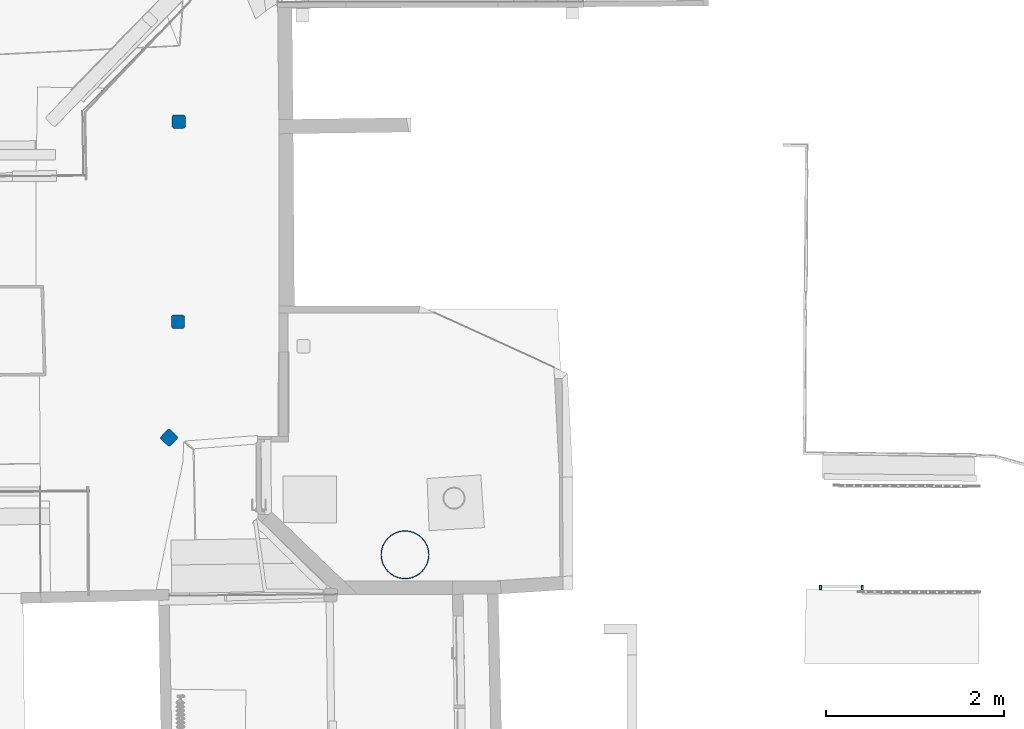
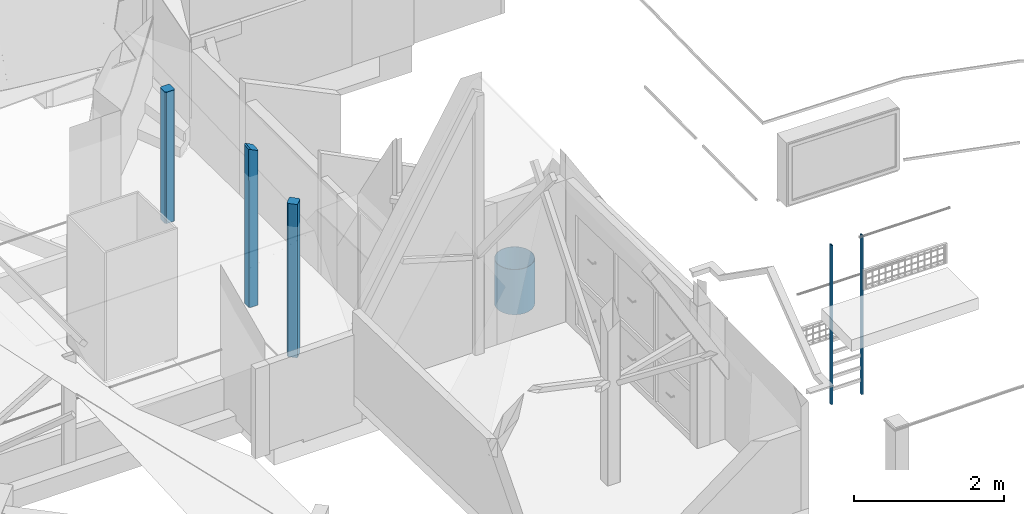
# One storey, part 2 of 39: 6 columns.
"""IFC2X3 building model written with IfcOpenShell, lengths in centimetres."""

from ifc_helpers import new_model, entity, si_unit, converted_unit, direction, frame, origin, origin_with_axes, origin_2d_with_axis, place, context, subcontext, project, spatial, polyline, rounded_rectangle, hollow_rectangle, hollow_circle, extrude, clip, bounded_halfspace, source, transform, mapped, material, type_object, element, save


model = new_model("IFC2X3")

# Units and contexts
model_context = context("Model", 3, precision=0.0001, world=origin(), true_north=direction((0.225632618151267, 0.974212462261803, 0.0)))
body_context = subcontext(model_context, "Body", "Model", "MODEL_VIEW")
ifc_project = project(units=[si_unit("LENGTHUNIT", "METRE", prefix="CENTI"), si_unit("AREAUNIT", "SQUARE_METRE", prefix="CENTI"), si_unit("VOLUMEUNIT", "CUBIC_METRE", prefix="CENTI"), converted_unit("PLANEANGLEUNIT", "DEGREE", entity("IfcRatioMeasure", 0.0174532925), si_unit("PLANEANGLEUNIT", "RADIAN"), dimensions=[0, 0, 0, 0, 0, 0, 0])], contexts=[model_context])

# Site, building, storey
site_placement = place(None, origin_with_axes())
site = spatial("IfcSite", under=ifc_project, at=site_placement, Name="Default Site", CompositionType="ELEMENT")
building_placement = place(site_placement, origin_with_axes())
building = spatial("IfcBuilding", under=site, at=building_placement, Name="Default Building", CompositionType="ELEMENT")
storey_placement = place(building_placement, frame((0.0, 0.0, 1088.91037418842), z_axis=(0.0, 0.0, 1.0), x_axis=(1.0, 0.0, 0.0)))
storey = spatial("IfcBuildingStorey", under=building, at=storey_placement, Name="Mezzanine", CompositionType="ELEMENT", Elevation=1088.91037418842)

# Columns
ifc_material_1 = material(Name="Aluminium mat")
column_type_1 = type_object("IfcColumnType", Name="2X1-5/16", PredefinedType="USERDEFINED", material=ifc_material_1)
shared_shape_1 = source(origin_with_axes(), body_context, "Body", "SweptSolid", [
    extrude(hollow_rectangle(XDim=2.5, YDim=5.0, WallThickness=0.79, at=origin_2d_with_axis()), origin_with_axes(), (0.0, 0.0, 1.0), 100.0),
])
column_1_placement = place(storey_placement, frame((1162.74193924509, -345.195610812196, -235.0), z_axis=(0.0, 0.0, 1.0), x_axis=(1.0, 0.0, 0.0)))
element("IfcColumn", 1, at=column_1_placement, inside=storey, type_object=column_type_1, material=ifc_material_1, Name="Poteau Acier 1519593", ObjectType="column", context=body_context, shape_type="MappedRepresentation", body=[
    mapped(shared_shape_1, transform((0.0, 4.44089209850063e-14, -1.77635683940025e-13), x_axis=(1.0, 0.0, 0.0), y_axis=(0.0, 1.0, 0.0), z_axis=(0.0, 0.0, 1.0), scale=1.0, scale2=1.0, scale3=2.59702416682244, uniform=False)),
])
column_2_placement = place(storey_placement, frame((1115.60962314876, -344.975083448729, -235.0), z_axis=(0.0, 0.0, 1.0), x_axis=(1.0, 0.0, 0.0)))
element("IfcColumn", 2, at=column_2_placement, inside=storey, type_object=column_type_1, material=ifc_material_1, Name="Poteau Acier 1519596", ObjectType="column", context=body_context, shape_type="MappedRepresentation", body=[
    mapped(shared_shape_1, transform((0.0, 0.0, -1.77635683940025e-13), x_axis=(1.0, 0.0, 0.0), y_axis=(0.0, 1.0, 0.0), z_axis=(0.0, 0.0, 1.0), scale=1.0, scale2=1.0, scale3=2.59702416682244, uniform=False)),
])
ifc_material_2 = material(Name="Blanc")
column_type_2 = type_object("IfcColumnType", Name="150.0x150.0x25.0", PredefinedType="USERDEFINED", material=ifc_material_2)
shared_shape_2 = source(origin_with_axes(), body_context, "Body", "SweptSolid", [
    extrude(rounded_rectangle(XDim=15.0, YDim=15.0, RoundingRadius=2.5, at=origin_2d_with_axis()), origin_with_axes(), (0.0, 0.0, 1.0), 100.0),
])
column_3_placement = place(storey_placement, frame((383.298838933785, -176.571393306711, 0.0), z_axis=(0.0, 0.0, 1.0), x_axis=(0.684711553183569, 0.728814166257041, 0.0)))
element("IfcColumn", 3, at=column_3_placement, inside=storey, type_object=column_type_2, material=ifc_material_2, Name="Poteau 834608", ObjectType="column", context=body_context, shape_type="MappedRepresentation", body=[
    mapped(shared_shape_2, transform((2.22044604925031e-14, 0.0, -1.77635683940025e-13), x_axis=(1.0, 0.0, 0.0), y_axis=(0.0, 1.0, 0.0), z_axis=(0.0, 0.0, 1.0), scale=1.0, scale2=1.0, scale3=2.50174718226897, uniform=False)),
])
column_4_placement = place(storey_placement, frame((394.15920501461, 178.774660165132, 0.0), z_axis=(0.0, 0.0, 1.0), x_axis=(1.0, 0.0, 0.0)))
element("IfcColumn", 4, at=column_4_placement, inside=storey, type_object=column_type_2, material=ifc_material_2, Name="Poteau 1780557", ObjectType="column", context=body_context, shape_type="MappedRepresentation", body=[
    mapped(shared_shape_2, transform((-4.44089209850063e-14, 0.0, -1.77635683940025e-13), x_axis=(1.0, 0.0, 0.0), y_axis=(0.0, 1.0, 0.0), z_axis=(0.0, 0.0, 1.0), scale=1.0, scale2=1.0, scale3=2.14702416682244, uniform=False)),
])
column_type_3 = type_object("IfcColumnType", Name="O 273x5", PredefinedType="USERDEFINED", material=ifc_material_1)
shared_shape_3 = source(origin_with_axes(), body_context, "Body", "SweptSolid", [
    extrude(hollow_circle(Radius=27.0, WallThickness=0.5, at=origin_2d_with_axis()), origin_with_axes(), (0.0, 0.0, 1.0), 100.0),
])
column_5_placement = place(storey_placement, frame((648.556784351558, -308.200419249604, 69.9999999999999), z_axis=(0.0, 0.0, 1.0), x_axis=(1.0, 0.0, 0.0)))
element("IfcColumn", 5, at=column_5_placement, inside=storey, type_object=column_type_3, material=ifc_material_1, Name="Poteau Acier 197580", ObjectType="column", context=body_context, shape_type="MappedRepresentation", body=[
    mapped(shared_shape_3, transform((0.0, 0.0, -1.77635683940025e-13), x_axis=(1.0, 0.0, 0.0), y_axis=(0.0, 1.0, 0.0), z_axis=(0.0, 0.0, 1.0), scale=1.0, scale2=1.0, scale3=0.737024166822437, uniform=False)),
])
column_6_placement = place(storey_placement, frame((393.392495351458, -46.238942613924, 0.0), z_axis=(0.0, 0.0, 1.0), x_axis=(1.0, 0.0, 0.0)))
element("IfcColumn", 6, at=column_6_placement, inside=storey, type_object=column_type_2, material=ifc_material_2, Name="Poteau 196101", ObjectType="column", context=body_context, shape_type="Clipping", body=[
    clip(clip(clip(clip(clip(extrude(rounded_rectangle(XDim=15.0, YDim=15.0, RoundingRadius=2.5, at=origin_2d_with_axis()), frame((-4.44089209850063e-14, 5.55111512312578e-15, 0.0), z_axis=(0.0, 0.0, 1.0), x_axis=(1.0, 0.0, 0.0)), (0.0, 0.0, 1.0), 258.818320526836), bounded_halfspace(frame((-4.54449535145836, 7.5, 258.81839755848), z_axis=(-0.44928920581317, 0.0915752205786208, -0.888680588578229), x_axis=(-0.892430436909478, 0.0, 0.451185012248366)), True, frame((-4.54449535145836, 7.5, 258.81839755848), z_axis=(0.0, 0.0, 1.0), x_axis=(1.0, 0.0, 0.0)), polyline([(9.54449535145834, -15.0), (-0.330999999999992, -15.0), (0.0, 0.0), (9.54449535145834, 0.0), (10.0322211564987, -0.0480367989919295), (10.5012039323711, -0.190301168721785), (10.9334209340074, -0.421325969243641), (11.3122623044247, -0.732233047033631), (11.6231693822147, -1.11107441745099), (11.8541941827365, -1.54329141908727), (11.9964585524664, -2.01227419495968), (12.0444953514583, -2.5), (12.0444953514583, -12.5), (11.9964585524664, -12.9877258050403), (11.8541941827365, -13.4567085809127), (11.6231693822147, -13.888925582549), (11.3122623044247, -14.2677669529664), (10.9334209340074, -14.5786740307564), (10.5012039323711, -14.8096988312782), (10.0322211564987, -14.9519632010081), (9.54449535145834, -15.0)]))), bounded_halfspace(frame((-5.00000000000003, 7.5, 258.819373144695), z_axis=(-0.00230117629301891, 0.0915300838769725, -0.995799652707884), x_axis=(-0.999997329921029, 0.0, 0.00231087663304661)), True, frame((-5.00000000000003, 7.5, 258.819373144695), z_axis=(0.0, 0.0, 1.0), x_axis=(1.0, 0.0, 0.0)), polyline([(0.123504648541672, -15.0), (0.0, -15.0), (-0.487725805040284, -14.9519632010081), (-0.956708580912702, -14.8096988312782), (-1.38892558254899, -14.5786740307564), (-1.76776695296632, -14.2677669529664), (-2.07867403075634, -13.888925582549), (-2.30969883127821, -13.4567085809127), (-2.45196320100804, -12.9877258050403), (-2.49999999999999, -12.5), (-2.49999999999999, -2.5), (-2.45196320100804, -2.01227419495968), (-2.30969883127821, -1.54329141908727), (-2.07867403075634, -1.11107441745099), (-1.76776695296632, -0.732233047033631), (-1.38892558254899, -0.421325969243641), (-0.956708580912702, -0.190301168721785), (-0.487725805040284, -0.0480367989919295), (0.0, 0.0), (0.455504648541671, 0.0), (0.123504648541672, -15.0)]))), bounded_halfspace(frame((-4.03349535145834, 8.00094261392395, 258.611672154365), z_axis=(-0.44928920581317, 0.0915752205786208, -0.888680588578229), x_axis=(-0.0238496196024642, -0.995607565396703, -0.0905360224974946)), True, frame((-4.03349535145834, 8.00094261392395, 258.611672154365), z_axis=(0.0, 0.0, 1.0), x_axis=(1.0, 0.0, 0.0)), polyline([(0.0, 0.0), (-0.0119999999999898, -0.500942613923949), (9.03349535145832, -0.500942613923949), (9.52122115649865, -0.548979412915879), (9.99020393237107, -0.691243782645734), (10.4224209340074, -0.92226858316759), (10.8012623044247, -1.23317566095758), (11.1121693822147, -1.61201703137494), (11.3431941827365, -2.04423403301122), (11.4854585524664, -2.51321680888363), (11.5334953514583, -3.00094261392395), (11.5334953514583, -13.000942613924), (11.4854585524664, -13.4886684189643), (11.3431941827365, -13.9576511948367), (11.1121693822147, -14.389868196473), (10.8012623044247, -14.7687095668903), (10.4224209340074, -15.0796166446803), (9.99020393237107, -15.3106414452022), (9.52122115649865, -15.452905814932), (9.03349535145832, -15.5009426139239), (-0.343000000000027, -15.5009426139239), (-0.35400000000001, -16.0), (9.05800000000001, -16.0), (9.619, -15.945), (10.182, -15.774), (10.701, -15.5009426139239), (11.156, -15.123), (11.5334953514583, -14.668), (11.807, -14.149), (11.978, -13.586), (12.033, -13.025), (12.033, -2.976), (11.978, -2.415), (11.807, -1.851), (11.5334953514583, -1.332), (11.156, -0.877), (10.701, -0.500942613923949), (10.182, -0.226999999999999), (9.619, -0.0560000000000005), (9.05800000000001, 0.0), (0.0, 0.0)]))), bounded_halfspace(frame((-5.38749535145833, -7.96305738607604, 257.651181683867), z_axis=(-0.44928920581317, 0.0915752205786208, -0.888680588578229), x_axis=(0.892430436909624, 0.0, -0.451185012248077)), True, frame((-5.38749535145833, -7.96305738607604, 257.651181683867), z_axis=(0.0, 0.0, 1.0), x_axis=(1.0, 0.0, 0.0)), polyline([(0.0, -0.0360000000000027), (0.361999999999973, -0.0360000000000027), (0.0, 0.0), (0.0, -0.0360000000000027)]))), bounded_halfspace(frame((-5.03449535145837, 8.00094261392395, 258.865497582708), z_axis=(-0.00230117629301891, 0.0915300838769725, -0.995799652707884), x_axis=(-0.95655130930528, -0.290533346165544, -0.0244942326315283)), True, frame((-5.03449535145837, 8.00094261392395, 258.865497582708), z_axis=(0.0, 0.0, 1.0), x_axis=(1.0, 0.0, 0.0)), polyline([(-0.551999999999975, -0.0560000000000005), (-1.11499999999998, -0.226999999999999), (-1.634, -0.500942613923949), (-2.08899999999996, -0.877), (-2.46550464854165, -1.332), (-2.73999999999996, -1.851), (-2.91099999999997, -2.415), (-2.96599999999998, -2.976), (-2.96599999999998, -13.025), (-2.91099999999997, -13.586), (-2.73999999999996, -14.149), (-2.46550464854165, -14.668), (-2.08899999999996, -15.123), (-1.634, -15.5009426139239), (-1.11499999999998, -15.774), (-0.551999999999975, -15.945), (-0.352999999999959, -15.964), (-0.341999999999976, -15.463), (-0.453230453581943, -15.452905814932), (-0.922213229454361, -15.3106414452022), (-1.35443023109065, -15.0796166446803), (-1.73327160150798, -14.7687095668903), (-2.044178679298, -14.389868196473), (-2.27520347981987, -13.9576511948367), (-2.4174678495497, -13.4886684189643), (-2.46550464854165, -13.000942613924), (-2.46550464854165, -3.00094261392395), (-2.4174678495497, -2.51321680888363), (-2.27520347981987, -2.04423403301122), (-2.044178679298, -1.61201703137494), (-1.73327160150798, -1.23317566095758), (-1.35443023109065, -0.92226858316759), (-0.922213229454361, -0.691243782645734), (-0.453230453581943, -0.548979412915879), (-0.0119999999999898, -0.500942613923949), (0.0, 0.0), (-0.551999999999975, -0.0560000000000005)]))),
])

save(model, "model.ifc")
